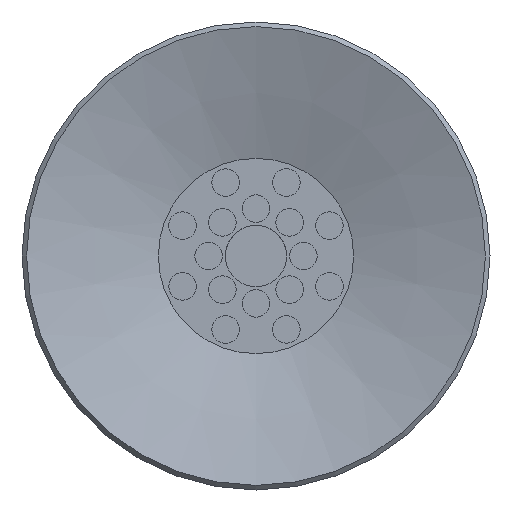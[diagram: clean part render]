
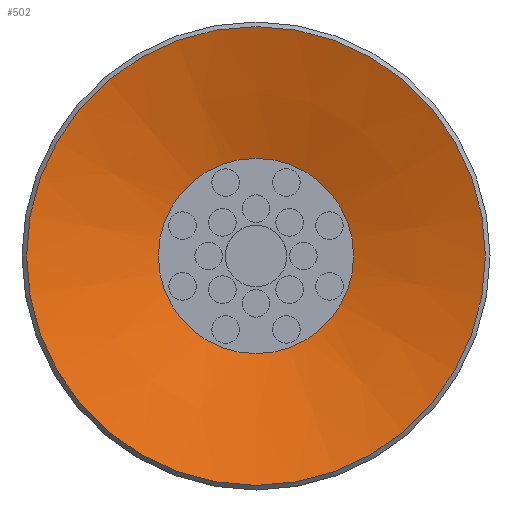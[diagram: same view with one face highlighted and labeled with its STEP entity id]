
A CAD part, front view. The second image highlights one B-rep face of the part: STEP entity #502.
In plain terms, the highlighted conical face has half-angle 72 degrees and reference radius 7.5 mm.
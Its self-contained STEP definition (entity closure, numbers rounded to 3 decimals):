
#502=ADVANCED_FACE('',(#811,#812),#813,.F.);
#811=FACE_BOUND('',#1173,.T.);
#812=FACE_OUTER_BOUND('',#1174,.T.);
#813=CONICAL_SURFACE('',#1175,7.5,1.257);
#1173=EDGE_LOOP('',(#1936));
#1174=EDGE_LOOP('',(#1937));
#1175=AXIS2_PLACEMENT_3D('',#1938,#1939,#1940);
#1936=ORIENTED_EDGE('',*,*,#2262,.T.);
#1937=ORIENTED_EDGE('',*,*,#2279,.F.);
#1938=CARTESIAN_POINT('',(0.0,0.,0.));
#1939=DIRECTION('',(0.0,0.,-1.0));
#1940=DIRECTION('',(0.0,1.0,0.));
#2262=EDGE_CURVE('',#2596,#2596,#2597,.T.);
#2279=EDGE_CURVE('',#2630,#2630,#2631,.T.);
#2596=VERTEX_POINT('',#3350);
#2597=CIRCLE('',#3351,3.191);
#2630=VERTEX_POINT('',#3384);
#2631=CIRCLE('',#3385,7.5);
#3350=CARTESIAN_POINT('',(0.0,-3.191,1.4));
#3351=AXIS2_PLACEMENT_3D('',#3700,#3701,#3702);
#3384=CARTESIAN_POINT('',(0.0,-7.5,0.));
#3385=AXIS2_PLACEMENT_3D('',#3751,#3752,#3753);
#3700=CARTESIAN_POINT('',(0.0,0.,1.4));
#3701=DIRECTION('',(0.0,0.,1.0));
#3702=DIRECTION('',(0.0,-1.0,0.));
#3751=CARTESIAN_POINT('',(0.0,0.,0.));
#3752=DIRECTION('',(0.0,0.,1.0));
#3753=DIRECTION('',(0.0,-1.0,0.));
